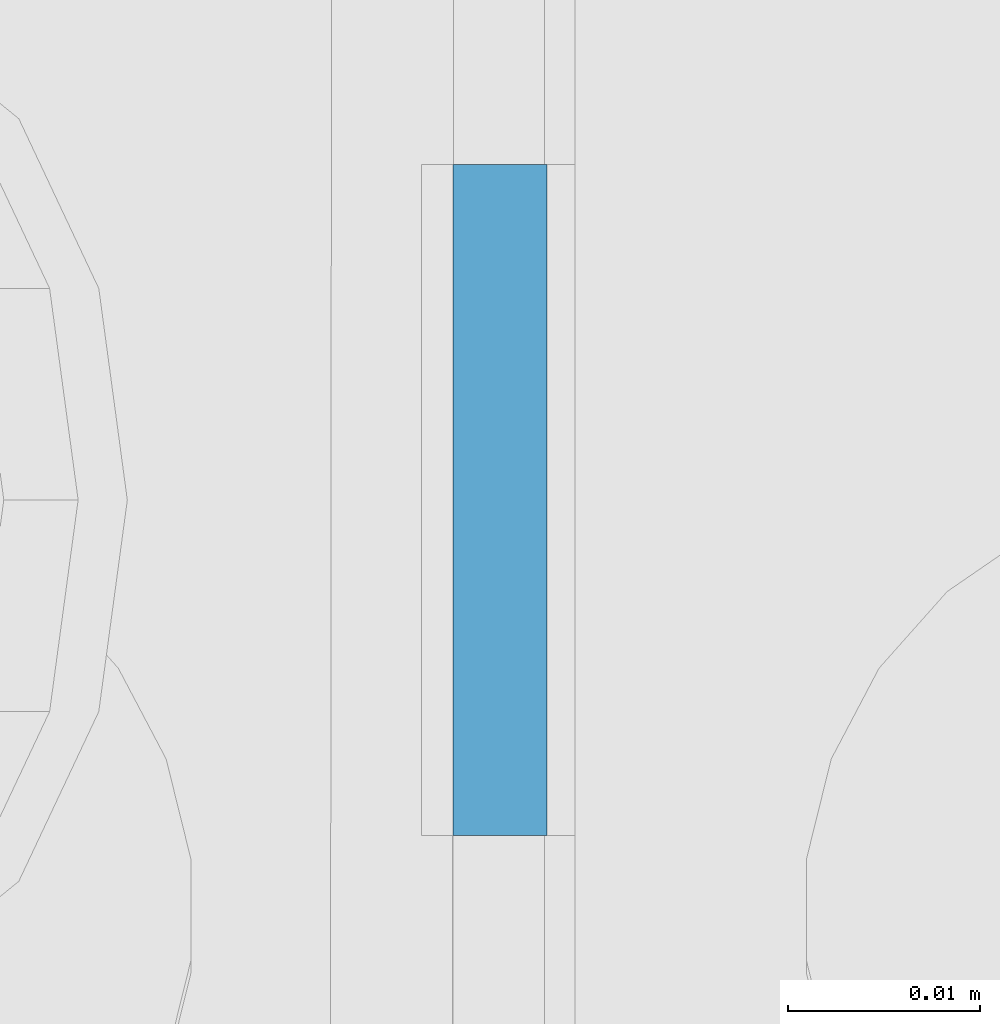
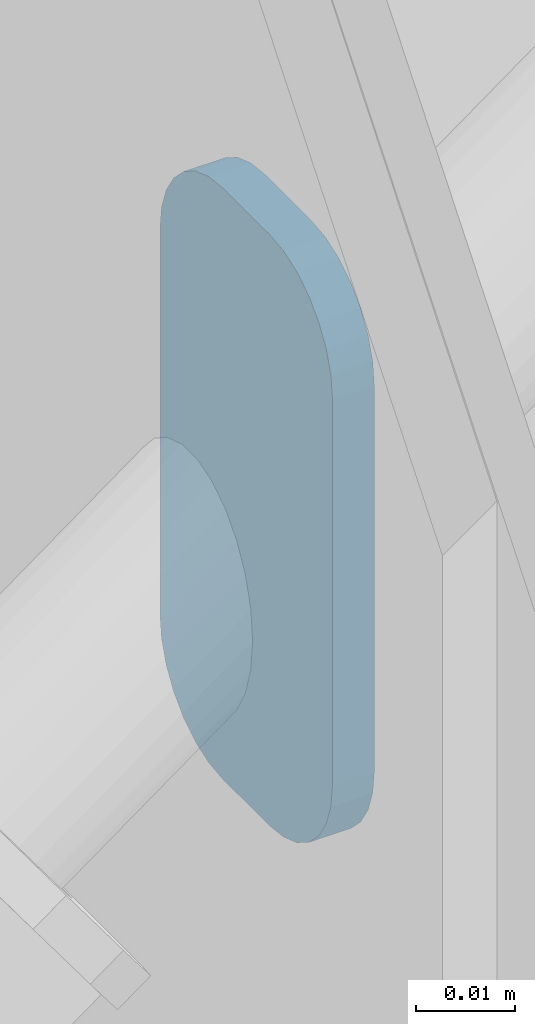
# One storey, part 152 of 185: 1 mechanical fastener, 1 element without a shape of its own.
"""IFC2X3 building model written with IfcOpenShell, lengths in millimetres."""

from ifc_helpers import new_model, si_unit, frame, frame_2d, origin_with_axes, place, context, subcontext, project, spatial, polyline, circle_curve, parameter, trimmed, segment, composite_curve, outline, extrude, source, transform, mapped, material, type_object, element, aggregate, save


model = new_model("IFC2X3")

# Units and contexts
model_context = context("Model", 3, precision=1e-05, world=origin_with_axes())
body_context = subcontext(model_context, "Body", "Model", "MODEL_VIEW")
ifc_project = project(units=[si_unit("LENGTHUNIT", "METRE", prefix="MILLI"), si_unit("AREAUNIT", "SQUARE_METRE"), si_unit("VOLUMEUNIT", "CUBIC_METRE"), si_unit("MASSUNIT", "GRAM", prefix="KILO"), si_unit("TIMEUNIT", "SECOND"), si_unit("PLANEANGLEUNIT", "RADIAN"), si_unit("SOLIDANGLEUNIT", "STERADIAN"), si_unit("THERMODYNAMICTEMPERATUREUNIT", "DEGREE_CELSIUS"), si_unit("LUMINOUSINTENSITYUNIT", "LUMEN")], contexts=[model_context])

# Site, building, storey
site_placement = place(None, origin_with_axes())
site = spatial("IfcSite", under=ifc_project, at=site_placement, Name="Undefined", CompositionType="ELEMENT")
building_placement = place(site_placement, origin_with_axes())
building = spatial("IfcBuilding", under=site, at=building_placement, Name="Undefined", CompositionType="ELEMENT")
storey_placement = place(building_placement, origin_with_axes())
storey = spatial("IfcBuildingStorey", under=building, at=storey_placement, Name="Undefined", CompositionType="ELEMENT", Elevation=0.0)

# Assembly, mechanical fastener
assembly_placement = place(storey_placement, origin_with_axes())
assembly = element("IfcElementAssembly", 1, at=assembly_placement, inside=storey, Name="Steel Assembly", AssemblyPlace="NOTDEFINED", PredefinedType="RIGID_FRAME")
ifc_material = material(Name="Undefined")
discrete_accessory_type = type_object("IfcDiscreteAccessoryType", Name="Bolt assembly")
shared_shape = source(origin_with_axes(), body_context, "Body", "SweptSolid", [
    extrude(outline(composite_curve([segment(polyline([(-23.8125, 17.4624996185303), (23.8125, 17.4624996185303)]), True, "CONTINUOUS"), segment(trimmed(circle_curve(frame_2d((23.8125, 4.76249980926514), x_axis=(0.0, 1.0)), 12.7), [parameter(0.0)], [parameter(4.71238898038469)], False, "PARAMETER"), True, "CONTINUOUS"), segment(polyline([(36.5124998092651, 4.76249980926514), (36.5124998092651, -4.76249980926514)]), True, "CONTINUOUS"), segment(trimmed(circle_curve(frame_2d((23.8125, -4.76249980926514), x_axis=(1.0, 0.0)), 12.7), [parameter(0.0)], [parameter(4.71238898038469)], False, "PARAMETER"), True, "CONTINUOUS"), segment(polyline([(23.8125, -17.4624996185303), (-23.8125, -17.4624996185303)]), True, "CONTINUOUS"), segment(trimmed(circle_curve(frame_2d((-23.8125, -4.76249980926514), x_axis=(0.0, -1.0)), 12.7), [parameter(0.0)], [parameter(4.71238898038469)], False, "PARAMETER"), True, "CONTINUOUS"), segment(polyline([(-36.5124998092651, -4.76249980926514), (-36.5124998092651, 4.76249980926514)]), True, "CONTINUOUS"), segment(trimmed(circle_curve(frame_2d((-23.8125, 4.76249980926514), x_axis=(-1.0, 0.0)), 12.7), [parameter(0.0)], [parameter(4.71238898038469)], False, "PARAMETER"), True, "DISCONTINUOUS")], self_intersect=False)), frame((0.0, -2.38125000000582, 0.0), z_axis=(0.0, 1.0, 0.0), x_axis=(1.0, 0.0, 0.0)), (0.0, 0.0, 1.0), 4.9),
])
mechanical_fastener_placement = place(assembly_placement, frame((7239.0, 31742.1260000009, 168.129683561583), z_axis=(0.0, 1.0, 0.0), x_axis=(0.0, 0.0, 1.0)))
mechanical_fastener = element("IfcMechanicalFastener", 2, at=mechanical_fastener_placement, type_object=discrete_accessory_type, material=ifc_material, Name="Bolt assembly", NominalDiameter=25.3999996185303, NominalLength=31.75, context=body_context, shape_type="MappedRepresentation", body=[
    mapped(shared_shape, transform((0.0, 0.0, 0.0))),
])
aggregate(assembly, [mechanical_fastener])

save(model, "model.ifc")
